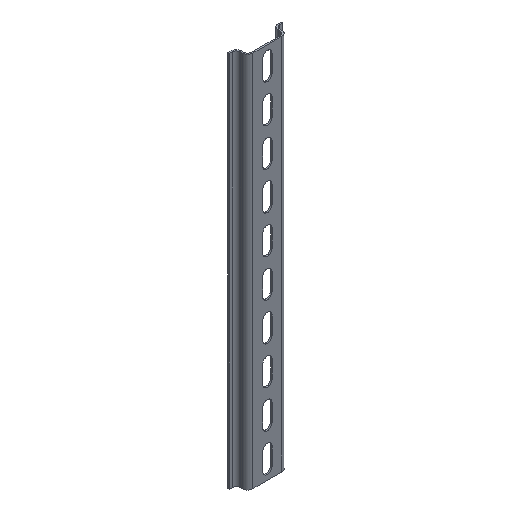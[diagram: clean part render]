
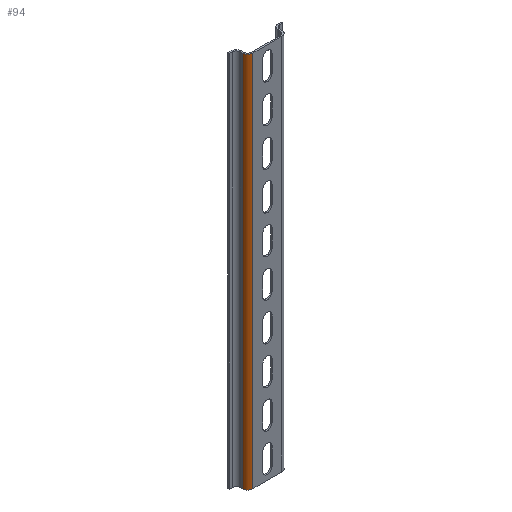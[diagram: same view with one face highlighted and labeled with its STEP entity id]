
A CAD part, isometric view. The second image highlights one B-rep face of the part: STEP entity #94.
In plain terms, the highlighted cylindrical face has radius 3.5 mm (diameter 7 mm), a partial arc.
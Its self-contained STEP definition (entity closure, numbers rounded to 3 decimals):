
#46 = DIRECTION ( 'NONE',  ( -1., 0., 0. ) ) ;
#83 = DIRECTION ( 'NONE',  ( 0., 0., -1. ) ) ;
#94 = ADVANCED_FACE ( 'NONE', ( #605 ), #1419, .T. ) ;
#105 = ORIENTED_EDGE ( 'NONE', *, *, #1360, .F. ) ;
#157 = CARTESIAN_POINT ( 'NONE',  ( -9.6, -1., 250. ) ) ;
#184 = DIRECTION ( 'NONE',  ( 0., 0., -1. ) ) ;
#185 = VERTEX_POINT ( 'NONE', #1555 ) ;
#236 = CARTESIAN_POINT ( 'NONE',  ( -9.6, 2.5, 250. ) ) ;
#340 = LINE ( 'NONE', #1539, #1986 ) ;
#464 = CIRCLE ( 'NONE', #716, 3.5 ) ;
#605 = FACE_OUTER_BOUND ( 'NONE', #1153, .T. ) ;
#696 = VERTEX_POINT ( 'NONE', #1764 ) ;
#716 = AXIS2_PLACEMENT_3D ( 'NONE', #1117, #1952, #2378 ) ;
#735 = EDGE_CURVE ( 'NONE', #185, #2640, #1719, .T. ) ;
#779 = ORIENTED_EDGE ( 'NONE', *, *, #2326, .T. ) ;
#867 = CARTESIAN_POINT ( 'NONE',  ( -13.1, 2.5, 250. ) ) ;
#994 = VERTEX_POINT ( 'NONE', #1854 ) ;
#1053 = AXIS2_PLACEMENT_3D ( 'NONE', #1319, #83, #1998 ) ;
#1117 = CARTESIAN_POINT ( 'NONE',  ( -9.6, 2.5, 0. ) ) ;
#1153 = EDGE_LOOP ( 'NONE', ( #2523, #105, #1330, #779 ) ) ;
#1319 = CARTESIAN_POINT ( 'NONE',  ( -9.6, 2.5, 250. ) ) ;
#1330 = ORIENTED_EDGE ( 'NONE', *, *, #735, .T. ) ;
#1360 = EDGE_CURVE ( 'NONE', #185, #994, #2687, .T. ) ;
#1419 = CYLINDRICAL_SURFACE ( 'NONE', #1596, 3.5 ) ;
#1539 = CARTESIAN_POINT ( 'NONE',  ( -13.1, 2.5, 250. ) ) ;
#1555 = CARTESIAN_POINT ( 'NONE',  ( -9.6, -1., 250. ) ) ;
#1596 = AXIS2_PLACEMENT_3D ( 'NONE', #236, #184, #46 ) ;
#1626 = DIRECTION ( 'NONE',  ( 0., 0., -1. ) ) ;
#1713 = VECTOR ( 'NONE', #1626, 1000. ) ;
#1719 = CIRCLE ( 'NONE', #1053, 3.5 ) ;
#1764 = CARTESIAN_POINT ( 'NONE',  ( -13.1, 2.5, 0. ) ) ;
#1854 = CARTESIAN_POINT ( 'NONE',  ( -9.6, -1., 0. ) ) ;
#1952 = DIRECTION ( 'NONE',  ( 0., 0., -1. ) ) ;
#1986 = VECTOR ( 'NONE', #2568, 1000. ) ;
#1998 = DIRECTION ( 'NONE',  ( 1., 0., 0. ) ) ;
#2214 = EDGE_CURVE ( 'NONE', #994, #696, #464, .T. ) ;
#2326 = EDGE_CURVE ( 'NONE', #2640, #696, #340, .T. ) ;
#2378 = DIRECTION ( 'NONE',  ( 1., 0., 0. ) ) ;
#2523 = ORIENTED_EDGE ( 'NONE', *, *, #2214, .F. ) ;
#2568 = DIRECTION ( 'NONE',  ( 0., 0., -1. ) ) ;
#2640 = VERTEX_POINT ( 'NONE', #867 ) ;
#2687 = LINE ( 'NONE', #157, #1713 ) ;
